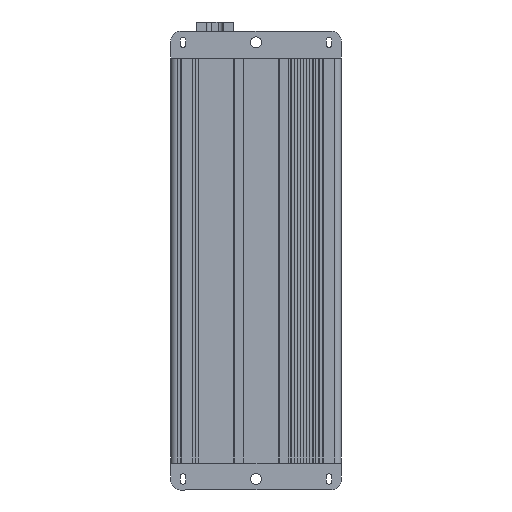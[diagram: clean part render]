
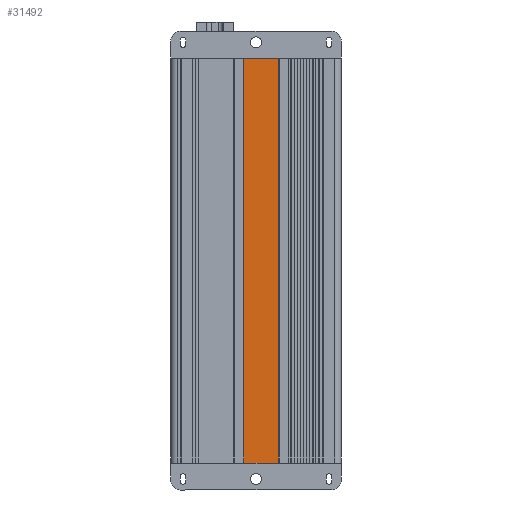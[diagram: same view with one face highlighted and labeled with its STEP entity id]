
A CAD part, left-side view. The second image highlights one B-rep face of the part: STEP entity #31492.
In plain terms, the highlighted planar face has unit normal (-1, 0, 0).
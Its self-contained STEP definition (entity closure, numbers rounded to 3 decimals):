
#912=PLANE('',#34569);
#1710=LINE('',#51945,#4119);
#3129=LINE('',#65730,#5538);
#3348=LINE('',#66262,#5757);
#3349=LINE('',#66264,#5758);
#4119=VECTOR('',#36736,0.394);
#5538=VECTOR('',#41899,0.394);
#5757=VECTOR('',#42494,0.394);
#5758=VECTOR('',#42497,0.394);
#8089=FACE_OUTER_BOUND('',#9917,.T.);
#9917=EDGE_LOOP('',(#27765,#27766,#27767,#27768));
#13010=VERTEX_POINT('',#51942);
#13011=VERTEX_POINT('',#51944);
#15004=VERTEX_POINT('',#65727);
#15005=VERTEX_POINT('',#65729);
#16337=EDGE_CURVE('',#13010,#13011,#1710,.T.);
#19189=EDGE_CURVE('',#15004,#15005,#3129,.T.);
#19472=EDGE_CURVE('',#13010,#15005,#3348,.T.);
#19473=EDGE_CURVE('',#13011,#15004,#3349,.T.);
#27765=ORIENTED_EDGE('',*,*,#16337,.F.);
#27766=ORIENTED_EDGE('',*,*,#19472,.T.);
#27767=ORIENTED_EDGE('',*,*,#19189,.F.);
#27768=ORIENTED_EDGE('',*,*,#19473,.F.);
#31492=ADVANCED_FACE('',(#8089),#912,.T.);
#34569=AXIS2_PLACEMENT_3D('',#66263,#42495,#42496);
#36736=DIRECTION('',(0.,1.,0.));
#41899=DIRECTION('',(0.,-1.,0.));
#42494=DIRECTION('',(0.,0.,1.));
#42495=DIRECTION('center_axis',(-1.,0.,0.));
#42496=DIRECTION('ref_axis',(0.,-1.,0.));
#42497=DIRECTION('',(0.,0.,1.));
#51942=CARTESIAN_POINT('',(-2.054,-0.531,-6.496));
#51944=CARTESIAN_POINT('',(-2.054,0.591,-6.496));
#51945=CARTESIAN_POINT('',(-2.054,-0.531,-6.496));
#65727=CARTESIAN_POINT('',(-2.054,0.591,6.496));
#65729=CARTESIAN_POINT('',(-2.054,-0.531,6.496));
#65730=CARTESIAN_POINT('',(-2.054,-0.531,6.496));
#66262=CARTESIAN_POINT('',(-2.054,-0.531,-6.496));
#66263=CARTESIAN_POINT('Origin',(-2.054,0.591,-6.496));
#66264=CARTESIAN_POINT('',(-2.054,0.591,-6.496));
